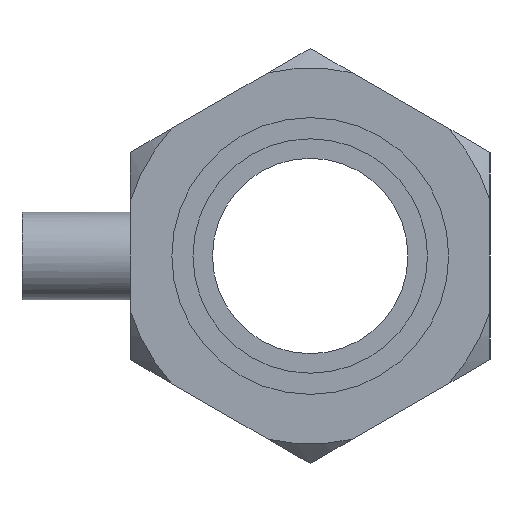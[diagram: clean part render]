
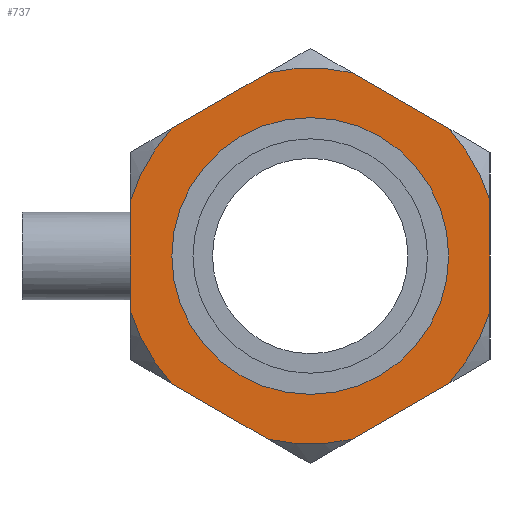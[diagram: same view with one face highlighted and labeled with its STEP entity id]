
A CAD part, left-side view. The second image highlights one B-rep face of the part: STEP entity #737.
In plain terms, the highlighted planar face has unit normal (-1, 0, 0).
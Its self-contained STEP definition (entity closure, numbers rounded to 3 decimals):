
#49=PLANE('',#830);
#60=FACE_BOUND('',#149,.T.);
#104=FACE_OUTER_BOUND('',#148,.T.);
#148=EDGE_LOOP('',(#621,#622,#623,#624,#625,#626,#627,#628,#629,#630,#631,
#632));
#149=EDGE_LOOP('',(#633,#634));
#171=LINE('',#1222,#200);
#175=LINE('',#1246,#204);
#181=LINE('',#1286,#210);
#182=LINE('',#1293,#211);
#185=LINE('',#1315,#214);
#188=LINE('',#1346,#217);
#200=VECTOR('',#930,10.);
#204=VECTOR('',#936,10.);
#210=VECTOR('',#944,10.);
#211=VECTOR('',#947,10.);
#214=VECTOR('',#952,10.);
#217=VECTOR('',#957,10.);
#246=CIRCLE('',#806,38.492);
#247=CIRCLE('',#808,38.492);
#248=CIRCLE('',#810,38.492);
#249=CIRCLE('',#812,38.492);
#250=CIRCLE('',#814,38.492);
#251=CIRCLE('',#816,38.492);
#258=CIRCLE('',#831,28.328);
#259=CIRCLE('',#832,28.328);
#303=VERTEX_POINT('',#1216);
#305=VERTEX_POINT('',#1221);
#311=VERTEX_POINT('',#1241);
#312=VERTEX_POINT('',#1245);
#318=VERTEX_POINT('',#1264);
#324=VERTEX_POINT('',#1282);
#325=VERTEX_POINT('',#1288);
#326=VERTEX_POINT('',#1292);
#331=VERTEX_POINT('',#1310);
#332=VERTEX_POINT('',#1314);
#335=VERTEX_POINT('',#1329);
#338=VERTEX_POINT('',#1342);
#339=VERTEX_POINT('',#1373);
#340=VERTEX_POINT('',#1374);
#391=EDGE_CURVE('',#305,#303,#171,.T.);
#399=EDGE_CURVE('',#312,#311,#175,.T.);
#412=EDGE_CURVE('',#318,#324,#181,.T.);
#414=EDGE_CURVE('',#326,#325,#182,.T.);
#421=EDGE_CURVE('',#332,#331,#185,.T.);
#431=EDGE_CURVE('',#335,#338,#188,.T.);
#432=EDGE_CURVE('',#326,#331,#246,.T.);
#433=EDGE_CURVE('',#332,#324,#247,.T.);
#434=EDGE_CURVE('',#318,#338,#248,.T.);
#435=EDGE_CURVE('',#312,#325,#249,.T.);
#436=EDGE_CURVE('',#305,#311,#250,.T.);
#437=EDGE_CURVE('',#335,#303,#251,.T.);
#444=EDGE_CURVE('',#339,#340,#258,.T.);
#445=EDGE_CURVE('',#340,#339,#259,.T.);
#621=ORIENTED_EDGE('',*,*,#391,.T.);
#622=ORIENTED_EDGE('',*,*,#437,.F.);
#623=ORIENTED_EDGE('',*,*,#431,.T.);
#624=ORIENTED_EDGE('',*,*,#434,.F.);
#625=ORIENTED_EDGE('',*,*,#412,.T.);
#626=ORIENTED_EDGE('',*,*,#433,.F.);
#627=ORIENTED_EDGE('',*,*,#421,.T.);
#628=ORIENTED_EDGE('',*,*,#432,.F.);
#629=ORIENTED_EDGE('',*,*,#414,.T.);
#630=ORIENTED_EDGE('',*,*,#435,.F.);
#631=ORIENTED_EDGE('',*,*,#399,.T.);
#632=ORIENTED_EDGE('',*,*,#436,.F.);
#633=ORIENTED_EDGE('',*,*,#444,.T.);
#634=ORIENTED_EDGE('',*,*,#445,.T.);
#737=ADVANCED_FACE('',(#104,#60),#49,.T.);
#806=AXIS2_PLACEMENT_3D('',#1348,#960,#961);
#808=AXIS2_PLACEMENT_3D('',#1350,#964,#965);
#810=AXIS2_PLACEMENT_3D('',#1352,#968,#969);
#812=AXIS2_PLACEMENT_3D('',#1354,#972,#973);
#814=AXIS2_PLACEMENT_3D('',#1356,#976,#977);
#816=AXIS2_PLACEMENT_3D('',#1358,#980,#981);
#830=AXIS2_PLACEMENT_3D('',#1372,#1008,#1009);
#831=AXIS2_PLACEMENT_3D('',#1375,#1010,#1011);
#832=AXIS2_PLACEMENT_3D('',#1376,#1012,#1013);
#930=DIRECTION('',(0.,0.866,0.5));
#936=DIRECTION('',(0.,0.,1.));
#944=DIRECTION('',(0.,0.,-1.));
#947=DIRECTION('',(0.,-0.866,0.5));
#952=DIRECTION('',(0.,-0.866,-0.5));
#957=DIRECTION('',(0.,0.866,-0.5));
#960=DIRECTION('center_axis',(1.,0.,0.));
#961=DIRECTION('ref_axis',(0.,-1.,0.));
#964=DIRECTION('center_axis',(1.,0.,0.));
#965=DIRECTION('ref_axis',(0.,-1.,0.));
#968=DIRECTION('center_axis',(1.,0.,0.));
#969=DIRECTION('ref_axis',(0.,-1.,0.));
#972=DIRECTION('center_axis',(1.,0.,0.));
#973=DIRECTION('ref_axis',(0.,-1.,0.));
#976=DIRECTION('center_axis',(1.,0.,0.));
#977=DIRECTION('ref_axis',(0.,-1.,0.));
#980=DIRECTION('center_axis',(1.,0.,0.));
#981=DIRECTION('ref_axis',(0.,-1.,0.));
#1008=DIRECTION('center_axis',(-1.,0.,0.));
#1009=DIRECTION('ref_axis',(0.,0.,1.));
#1010=DIRECTION('center_axis',(1.,0.,0.));
#1011=DIRECTION('ref_axis',(0.,0.,-1.));
#1012=DIRECTION('center_axis',(1.,0.,0.));
#1013=DIRECTION('ref_axis',(0.,0.,-1.));
#1216=CARTESIAN_POINT('',(0.,-8.622,37.514));
#1221=CARTESIAN_POINT('',(0.,-28.177,26.224));
#1222=CARTESIAN_POINT('',(0.,6.735,46.38));
#1241=CARTESIAN_POINT('',(0.,-36.799,11.29));
#1245=CARTESIAN_POINT('',(0.,-36.799,-11.29));
#1246=CARTESIAN_POINT('',(0.,-36.799,10.623));
#1264=CARTESIAN_POINT('',(0.,36.799,11.29));
#1282=CARTESIAN_POINT('',(0.,36.799,-11.29));
#1286=CARTESIAN_POINT('',(0.,36.799,-10.623));
#1288=CARTESIAN_POINT('',(0.,-28.177,-26.224));
#1292=CARTESIAN_POINT('',(0.,-8.622,-37.514));
#1293=CARTESIAN_POINT('',(0.,-11.665,-35.757));
#1310=CARTESIAN_POINT('',(0.,8.622,-37.514));
#1314=CARTESIAN_POINT('',(0.,28.177,-26.224));
#1315=CARTESIAN_POINT('',(0.,25.134,-27.981));
#1329=CARTESIAN_POINT('',(0.,8.622,37.514));
#1342=CARTESIAN_POINT('',(0.,28.177,26.224));
#1346=CARTESIAN_POINT('',(0.,43.534,17.358));
#1348=CARTESIAN_POINT('Origin',(0.,0.,0.));
#1350=CARTESIAN_POINT('Origin',(0.,0.,0.));
#1352=CARTESIAN_POINT('Origin',(0.,0.,0.));
#1354=CARTESIAN_POINT('Origin',(0.,0.,0.));
#1356=CARTESIAN_POINT('Origin',(0.,0.,0.));
#1358=CARTESIAN_POINT('Origin',(0.,0.,0.));
#1372=CARTESIAN_POINT('Origin',(0.,42.492,0.));
#1373=CARTESIAN_POINT('',(0.,28.328,0.));
#1374=CARTESIAN_POINT('',(0.,-28.328,0.));
#1375=CARTESIAN_POINT('Origin',(0.,0.,0.));
#1376=CARTESIAN_POINT('Origin',(0.,0.,0.));
